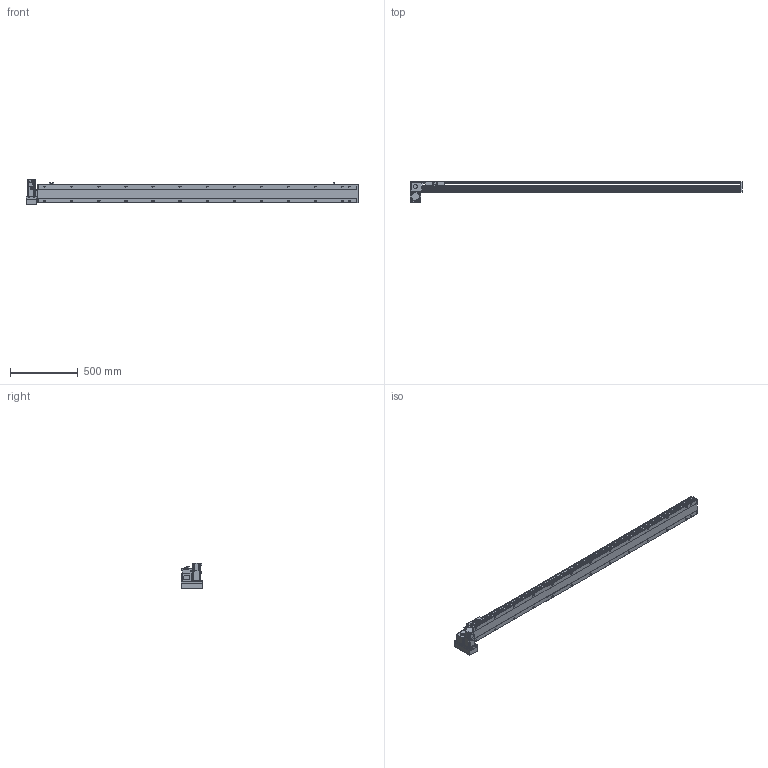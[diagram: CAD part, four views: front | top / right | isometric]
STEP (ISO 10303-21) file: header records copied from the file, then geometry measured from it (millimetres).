
FILE_DESCRIPTION( ( 'STEP AP214' ), '1' );
FILE_NAME( 'x:/temp/worker_27/temp/exporttempdir_6708_576_ombbx/format_0/PBS140-P40-S2100-LD-T40-C1-N(0).stp', '2022-06-06T05:57:28', ( 'License CC BY-ND 4.0' ), ( 'CADENAS' ), ' ', 'PARTsolutions', ' ' );
FILE_SCHEMA( ( 'AUTOMOTIVE_DESIGN { 1 0 10303 214 1 1 1 1 }' ) );
Length unit declared in the file: millimetre
Products named in the file (7): PBS140-P40-S2100-LD-T40-C1-N(0); _PBS140-S2100()_body; _PBS140T-LD_motors; _T40-p1; _PBS140_sliser; _PBS140_plant; _PBS140_sensor
Assembly tree (8 placements, depth 2):
  PBS140-P40-S2100-LD-T40-C1-N(0)
    _PBS140-S2100()_body
    _PBS140T-LD_motors
    _T40-p1
    _PBS140_sliser
    _PBS140_plant
    _PBS140_sensor  x3
Bounding box: 2454 x 162 x 189.7 mm (x, y, z)
Volume: 11122198.7 mm3; surface area: 1903273 mm2
Topology: 8 solids, 8 shells, 1155 faces, 3036 edges, 1983 vertices
Faces by surface type: plane 722, cylinder 371, cone 52, sphere 8, torus 2
Full cylindrical faces by diameter (mm): 3.242 x4, 4 x2, 4.134 x4, 4.4 x8, 4.5 x2, 4.8 x4, 4.917 x34, 5.5 x7, 6 x2, 7 x28, 7.5 x8, 8 x12, 8.5 x4, 10.5 x26, 14 x1, 30 x2, 50 x2
Entity records: 42499 total; most frequent: CARTESIAN_POINT 7091, DIRECTION 5547, ORIENTED_EDGE 5212, EDGE_CURVE 2606, AXIS2_PLACEMENT_3D 1957, VERTEX_POINT 1821, LINE 1633, VECTOR 1633
